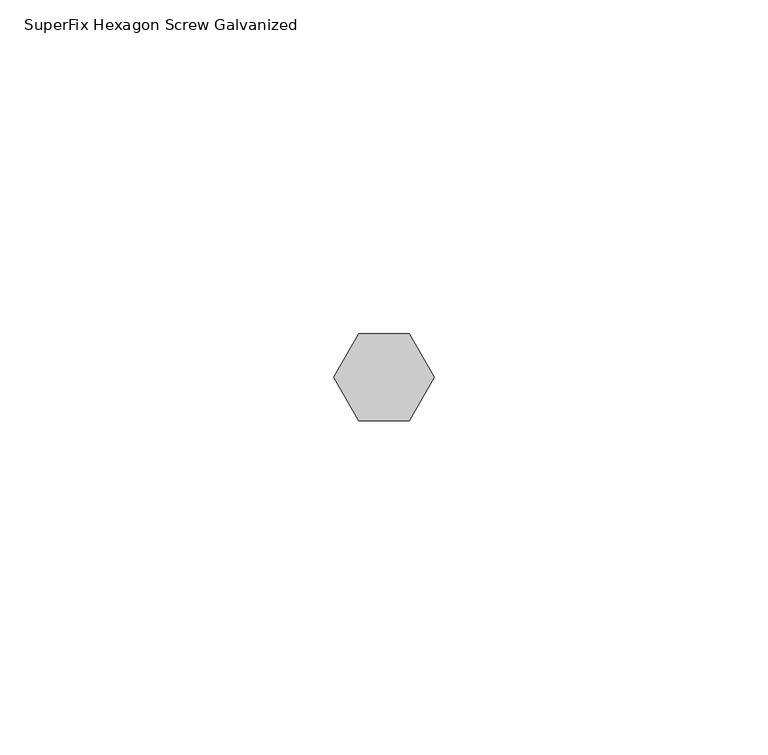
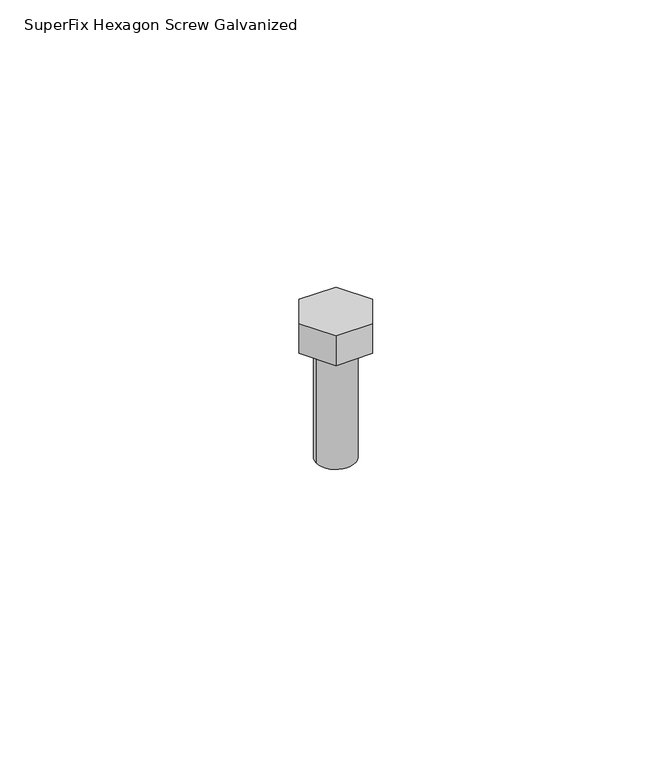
"""IFC4 building model written with IfcOpenShell, lengths in millimetres: valve geometry, SuperFix Hexagon Screw Galvanized : Hexagon Screw Galvanized Extra  M8 × 25."""

from ifc_helpers import new_model, si_unit, frame, origin, origin_with_axes, place, context, project, spatial, circle_curve, source, transform, mapped, element, save
from ifc_brep_helpers import plane_surface, cylinder_surface, advanced_brep


def superfix_hexagon_screw_galvanized_e39b877e(model_context):
    return source(origin(), model_context, "Body", "AdvancedBrep", [
        advanced_brep(
        [(-7.5055535, 0.0, 6.5), (-3.7527767, -6.5, 6.5), (3.7527767, -6.5, 6.5), (7.5055535, 0.0, 6.5), (3.7527767, 6.5, 6.5), (-3.7527767, 6.5, 6.5), (-7.5055535, 0.0, 0.0), (-3.7527767, 6.5, 0.0), (3.7527767, 6.5, 0.0), (7.5055535, 0.0, 0.0), (3.7527767, -6.5, 0.0), (-3.7527767, -6.5, 0.0), (-4.0, 0.0, 0.0), (4.0, 0.0, 0.0), (-4.0, 0.0, -25.0), (4.0, 0.0, -25.0)],
        [
            (0, 1),
            (1, 2),
            (2, 3),
            (3, 4),
            (4, 5),
            (5, 0),
            (6, 7),
            (7, 8),
            (8, 9),
            (9, 10),
            (10, 11),
            (11, 6),
            (12, 13, circle_curve(origin_with_axes(), 4.0)),
            (13, 12, circle_curve(origin_with_axes(), 4.0)),
            (0, 6),
            (11, 1),
            (10, 2),
            (9, 3),
            (8, 4),
            (7, 5),
            (14, 15, circle_curve(frame((0.0, 0.0, -25.0), z_axis=(0.0, 0.0, -1.0), x_axis=(1.0, 0.0, 0.0)), 4.0)),
            (15, 14, circle_curve(frame((0.0, 0.0, -25.0), z_axis=(0.0, 0.0, -1.0), x_axis=(1.0, 0.0, 0.0)), 4.0)),
            (15, 13),
            (12, 14),
        ],
        [
            plane_surface(frame((-7.5055535, 0.0, 6.5), z_axis=(0.0, 0.0, 1.0), x_axis=(0.49999999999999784, -0.8660254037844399, 0.0))),
            plane_surface(frame((-7.5055535, 0.0, 0.0), z_axis=(0.0, 0.0, -1.0), x_axis=(-0.49999999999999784, 0.8660254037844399, 0.0))),
            plane_surface(frame((-7.5055535, 0.0, 6.5), z_axis=(-0.8660254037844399, -0.49999999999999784, 0.0), x_axis=(0.0, 0.0, -1.0))),
            plane_surface(frame((-3.7527767, -6.5, 6.5), z_axis=(0.0, -1.0, 0.0), x_axis=(0.0, 0.0, -1.0))),
            plane_surface(frame((3.7527767, -6.5, 6.5), z_axis=(0.8660254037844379, -0.5000000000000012, 0.0), x_axis=(0.0, 0.0, -1.0))),
            plane_surface(frame((7.5055535, 0.0, 6.5), z_axis=(0.8660254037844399, 0.4999999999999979, 0.0), x_axis=(0.0, 0.0, -1.0))),
            plane_surface(frame((3.7527767, 6.5, 6.5), z_axis=(0.0, 1.0, 0.0), x_axis=(0.0, 0.0, -1.0))),
            plane_surface(frame((-3.7527767, 6.5, 6.5), z_axis=(-0.866025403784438, 0.5000000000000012, 0.0), x_axis=(0.0, 0.0, -1.0))),
            plane_surface(frame((4.0, 0.0, -25.0), z_axis=(0.0, 0.0, -1.0), x_axis=(0.0, -1.0, 0.0))),
            cylinder_surface(frame((0.0, 0.0, -25.0), z_axis=(0.0, 0.0, 1.0), x_axis=(1.0, 0.0, 0.0)), 4.0),
        ],
        [
            (0, [[1, 2, 3, 4, 5, 6]]),
            (1, [[7, 8, 9, 10, 11, 12], [13, 14]]),
            (2, [[-1, 15, -12, 16]]),
            (3, [[-2, -16, -11, 17]]),
            (4, [[-3, -17, -10, 18]]),
            (5, [[-4, -18, -9, 19]]),
            (6, [[-5, -19, -8, 20]]),
            (7, [[-6, -20, -7, -15]]),
            (8, [[21, 22]]),
            (9, [[-22, 23, -13, 24]]),
            (9, [[-21, -24, -14, -23]]),
        ],
    ),
    ])


if __name__ == "__main__":
    model = new_model("IFC4")
    model_context = context("Model", 3, world=origin())
    ifc_project = project(units=[si_unit("LENGTHUNIT", "METRE", prefix="MILLI")], contexts=[model_context])
    site = spatial("IfcSite", under=ifc_project)
    building = spatial("IfcBuilding", under=site)
    placement = place(None, origin())
    superfix_hexagon_screw_galvanized_shape = superfix_hexagon_screw_galvanized_e39b877e(model_context)
    element("IfcValve", 1, ObjectType="SuperFix Hexagon Screw Galvanized : Hexagon Screw Galvanized Extra  M8 × 25", at=placement, inside=building, context=model_context, shape_type="MappedRepresentation", body=[
        mapped(superfix_hexagon_screw_galvanized_shape, transform((0.0, 0.0, 0.0), x_axis=(1.0, 0.0, 0.0), y_axis=(0.0, 1.0, 0.0), z_axis=(0.0, 0.0, 1.0))),
    ])
    save(model, "model.ifc")
